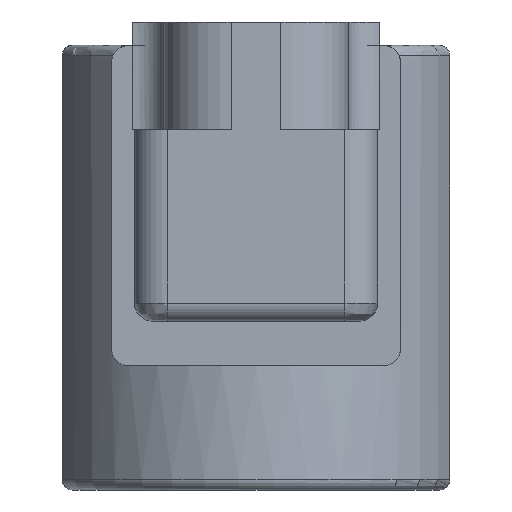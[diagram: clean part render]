
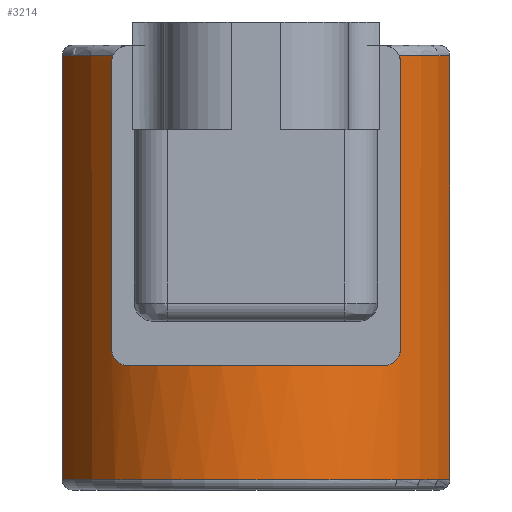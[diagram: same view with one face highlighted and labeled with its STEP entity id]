
A CAD part, left-side view. The second image highlights one B-rep face of the part: STEP entity #3214.
In plain terms, the highlighted cylindrical face has radius 19.5 mm (diameter 39 mm), a partial arc.
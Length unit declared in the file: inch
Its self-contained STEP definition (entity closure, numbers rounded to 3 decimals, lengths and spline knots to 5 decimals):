
#2257=CARTESIAN_POINT('',(5.67394,4.96976,-1.65354));
#2258=VERTEX_POINT('',#2257);
#2318=CARTESIAN_POINT('',(5.67394,3.49338,-1.65354));
#2319=VERTEX_POINT('',#2318);
#2337=CARTESIAN_POINT('',(5.88481,4.23157,-1.65354));
#2338=DIRECTION('',(0.0,0.0,-1.0));
#2339=DIRECTION('',(-1.0,0.0,0.0));
#2340=AXIS2_PLACEMENT_3D('',#2337,#2338,#2339);
#2341=CIRCLE('',#2340,0.76772);
#2342=EDGE_CURVE('',#2319,#2258,#2341,.T.);
#2442=CARTESIAN_POINT('',(5.67394,3.49338,-0.03937));
#2443=VERTEX_POINT('',#2442);
#2450=CARTESIAN_POINT('',(5.67394,3.49338,-0.03937));
#2451=DIRECTION('',(0.0,0.0,-1.0));
#2452=VECTOR('',#2451,1.61417);
#2453=LINE('',#2450,#2452);
#2454=EDGE_CURVE('',#2443,#2319,#2453,.T.);
#2769=CARTESIAN_POINT('',(5.34363,4.77611,-0.03937));
#2770=VERTEX_POINT('',#2769);
#2782=CARTESIAN_POINT('',(5.3504,4.78276,-0.0689));
#2783=VERTEX_POINT('',#2782);
#2784=CARTESIAN_POINT('',(5.3504,4.78276,-0.0689));
#2785=CARTESIAN_POINT('',(5.3504,4.78276,-0.06457));
#2786=CARTESIAN_POINT('',(5.34997,4.78234,-0.06017));
#2787=CARTESIAN_POINT('',(5.34828,4.78069,-0.05159));
#2788=CARTESIAN_POINT('',(5.34701,4.77945,-0.04739));
#2789=CARTESIAN_POINT('',(5.34486,4.77733,-0.04205));
#2790=CARTESIAN_POINT('',(5.34426,4.77674,-0.0407));
#2791=CARTESIAN_POINT('',(5.34363,4.77611,-0.03937));
#2792=B_SPLINE_CURVE_WITH_KNOTS('',3,(#2784,#2785,#2786,#2787,#2788,#2789,#2790,#2791),.UNSPECIFIED.,.F.,.U.,(4,2,2,4),(0.0,0.33006,0.66013,0.77574),.UNSPECIFIED.);
#2793=EDGE_CURVE('',#2783,#2770,#2792,.T.);
#2836=CARTESIAN_POINT('',(5.67394,4.96976,-0.03937));
#2837=VERTEX_POINT('',#2836);
#2855=CARTESIAN_POINT('',(5.88481,4.23157,-0.03937));
#2856=DIRECTION('',(0.0,0.0,1.0));
#2857=DIRECTION('',(-1.0,0.0,0.0));
#2858=AXIS2_PLACEMENT_3D('',#2855,#2856,#2857);
#2859=CIRCLE('',#2858,0.76772);
#2860=EDGE_CURVE('',#2837,#2770,#2859,.T.);
#2889=CARTESIAN_POINT('',(5.3504,3.68039,-0.0689));
#2890=VERTEX_POINT('',#2889);
#2897=CARTESIAN_POINT('',(5.34363,3.68704,-0.03937));
#2898=VERTEX_POINT('',#2897);
#2899=CARTESIAN_POINT('',(5.34363,3.68704,-0.03937));
#2900=CARTESIAN_POINT('',(5.34426,3.68641,-0.0407));
#2901=CARTESIAN_POINT('',(5.34486,3.68582,-0.04205));
#2902=CARTESIAN_POINT('',(5.34701,3.6837,-0.04739));
#2903=CARTESIAN_POINT('',(5.34828,3.68246,-0.05159));
#2904=CARTESIAN_POINT('',(5.34997,3.68081,-0.06017));
#2905=CARTESIAN_POINT('',(5.3504,3.68039,-0.06457));
#2906=CARTESIAN_POINT('',(5.3504,3.68039,-0.0689));
#2907=B_SPLINE_CURVE_WITH_KNOTS('',3,(#2899,#2900,#2901,#2902,#2903,#2904,#2905,#2906),.UNSPECIFIED.,.F.,.U.,(4,2,2,4),(-0.77574,-0.66013,-0.33006,0.0),.UNSPECIFIED.);
#2908=EDGE_CURVE('',#2898,#2890,#2907,.T.);
#3057=CARTESIAN_POINT('',(5.3504,3.68039,-1.15158));
#3058=VERTEX_POINT('',#3057);
#3059=CARTESIAN_POINT('',(5.3504,3.68039,-0.0689));
#3060=DIRECTION('',(0.0,0.0,-1.0));
#3061=VECTOR('',#3060,1.08268);
#3062=LINE('',#3059,#3061);
#3063=EDGE_CURVE('',#2890,#3058,#3062,.T.);
#3081=CARTESIAN_POINT('',(5.28749,3.74929,-1.22047));
#3082=VERTEX_POINT('',#3081);
#3083=CARTESIAN_POINT('',(5.3504,3.68039,-1.15158));
#3084=CARTESIAN_POINT('',(5.3504,3.68039,-1.15591));
#3085=CARTESIAN_POINT('',(5.34997,3.68081,-1.1603));
#3086=CARTESIAN_POINT('',(5.34828,3.68246,-1.16889));
#3087=CARTESIAN_POINT('',(5.34701,3.6837,-1.17308));
#3088=CARTESIAN_POINT('',(5.34223,3.68841,-1.18495));
#3089=CARTESIAN_POINT('',(5.3377,3.69296,-1.19191));
#3090=CARTESIAN_POINT('',(5.32665,3.70437,-1.20475));
#3091=CARTESIAN_POINT('',(5.31896,3.71259,-1.2107));
#3092=CARTESIAN_POINT('',(5.30306,3.73047,-1.21857));
#3093=CARTESIAN_POINT('',(5.29487,3.74014,-1.22047));
#3094=CARTESIAN_POINT('',(5.28749,3.74929,-1.22047));
#3095=B_SPLINE_CURVE_WITH_KNOTS('',3,(#3083,#3084,#3085,#3086,#3087,#3088,#3089,#3090,#3091,#3092,#3093,#3094),.UNSPECIFIED.,.F.,.U.,(4,2,2,2,2,4),(0.0,0.33006,0.66013,1.32026,2.21635,3.11244),.UNSPECIFIED.);
#3096=EDGE_CURVE('',#3058,#3082,#3095,.T.);
#3114=CARTESIAN_POINT('',(5.28749,4.71386,-1.22047));
#3115=VERTEX_POINT('',#3114);
#3116=CARTESIAN_POINT('',(5.88481,4.23157,-1.22047));
#3117=DIRECTION('',(0.0,0.0,-1.0));
#3118=DIRECTION('',(-1.0,0.0,0.0));
#3119=AXIS2_PLACEMENT_3D('',#3116,#3117,#3118);
#3120=CIRCLE('',#3119,0.76772);
#3121=EDGE_CURVE('',#3082,#3115,#3120,.T.);
#3139=CARTESIAN_POINT('',(5.3504,4.78276,-1.15158));
#3140=VERTEX_POINT('',#3139);
#3141=CARTESIAN_POINT('',(5.28749,4.71386,-1.22047));
#3142=CARTESIAN_POINT('',(5.29487,4.72301,-1.22047));
#3143=CARTESIAN_POINT('',(5.30306,4.73268,-1.21857));
#3144=CARTESIAN_POINT('',(5.31896,4.75056,-1.2107));
#3145=CARTESIAN_POINT('',(5.32665,4.75878,-1.20475));
#3146=CARTESIAN_POINT('',(5.3377,4.77019,-1.19191));
#3147=CARTESIAN_POINT('',(5.34223,4.77473,-1.18495));
#3148=CARTESIAN_POINT('',(5.34701,4.77945,-1.17308));
#3149=CARTESIAN_POINT('',(5.34828,4.78069,-1.16889));
#3150=CARTESIAN_POINT('',(5.34997,4.78234,-1.1603));
#3151=CARTESIAN_POINT('',(5.3504,4.78276,-1.15591));
#3152=CARTESIAN_POINT('',(5.3504,4.78276,-1.15158));
#3153=B_SPLINE_CURVE_WITH_KNOTS('',3,(#3141,#3142,#3143,#3144,#3145,#3146,#3147,#3148,#3149,#3150,#3151,#3152),.UNSPECIFIED.,.F.,.U.,(4,2,2,2,2,4),(-3.11244,-2.21635,-1.32026,-0.66013,-0.33006,0.0),.UNSPECIFIED.);
#3154=EDGE_CURVE('',#3115,#3140,#3153,.T.);
#3172=CARTESIAN_POINT('',(5.3504,4.78276,-1.15158));
#3173=DIRECTION('',(0.0,0.0,1.0));
#3174=VECTOR('',#3173,1.08268);
#3175=LINE('',#3172,#3174);
#3176=EDGE_CURVE('',#3140,#2783,#3175,.T.);
#3184=CARTESIAN_POINT('',(5.88481,4.23157,0.0));
#3185=DIRECTION('',(0.0,0.0,-1.0));
#3186=DIRECTION('',(-1.0,0.0,0.0));
#3187=AXIS2_PLACEMENT_3D('',#3184,#3185,#3186);
#3188=CYLINDRICAL_SURFACE('',#3187,0.76772);
#3189=ORIENTED_EDGE('',*,*,#2454,.F.);
#3190=CARTESIAN_POINT('',(5.88481,4.23157,-0.03937));
#3191=DIRECTION('',(0.0,0.0,1.0));
#3192=DIRECTION('',(-1.0,0.0,0.0));
#3193=AXIS2_PLACEMENT_3D('',#3190,#3191,#3192);
#3194=CIRCLE('',#3193,0.76772);
#3195=EDGE_CURVE('',#2898,#2443,#3194,.T.);
#3196=ORIENTED_EDGE('',*,*,#3195,.F.);
#3197=ORIENTED_EDGE('',*,*,#2908,.T.);
#3198=ORIENTED_EDGE('',*,*,#3063,.T.);
#3199=ORIENTED_EDGE('',*,*,#3096,.T.);
#3200=ORIENTED_EDGE('',*,*,#3121,.T.);
#3201=ORIENTED_EDGE('',*,*,#3154,.T.);
#3202=ORIENTED_EDGE('',*,*,#3176,.T.);
#3203=ORIENTED_EDGE('',*,*,#2793,.T.);
#3204=ORIENTED_EDGE('',*,*,#2860,.F.);
#3205=CARTESIAN_POINT('',(5.67394,4.96976,-0.03937));
#3206=DIRECTION('',(0.0,0.0,-1.0));
#3207=VECTOR('',#3206,1.61417);
#3208=LINE('',#3205,#3207);
#3209=EDGE_CURVE('',#2837,#2258,#3208,.T.);
#3210=ORIENTED_EDGE('',*,*,#3209,.T.);
#3211=ORIENTED_EDGE('',*,*,#2342,.F.);
#3212=EDGE_LOOP('',(#3189,#3196,#3197,#3198,#3199,#3200,#3201,#3202,#3203,#3204,#3210,#3211));
#3213=FACE_OUTER_BOUND('',#3212,.T.);
#3214=ADVANCED_FACE('',(#3213),#3188,.T.);
